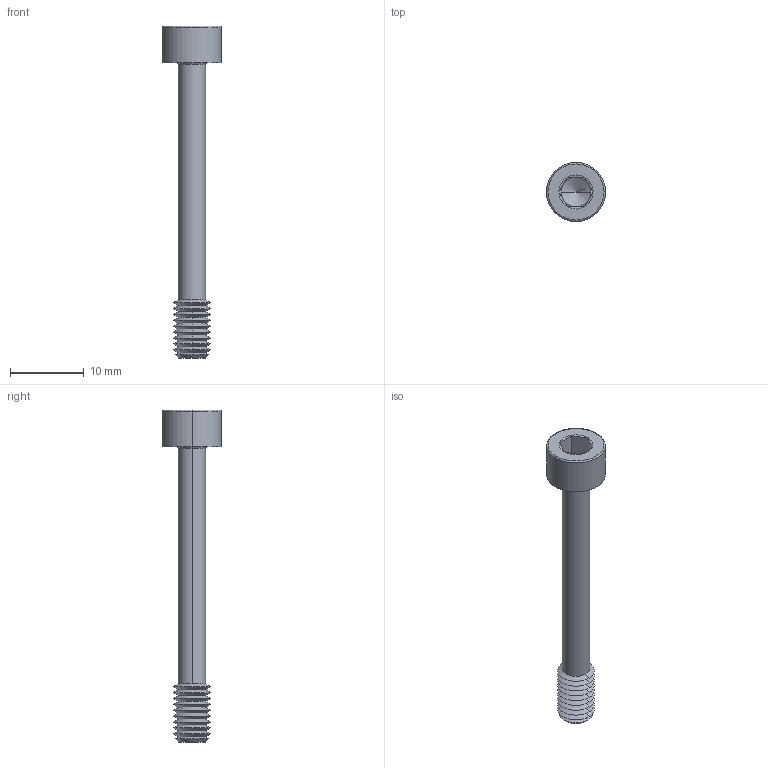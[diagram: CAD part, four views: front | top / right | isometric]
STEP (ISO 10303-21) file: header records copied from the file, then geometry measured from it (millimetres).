
FILE_DESCRIPTION (( 'STEP AP203' ), '1' );
FILE_NAME ('P0154.050-040-BL.step', '2024-06-17T11:27:44', ( '' ), ( '' ), 'SwSTEP 2.0', 'SolidWorks 2019', '' );
FILE_SCHEMA (( 'CONFIG_CONTROL_DESIGN' ));
Length unit declared in the file: millimetre
Products named in the file (1): P0154.050-040-BL
Bounding box: 8 x 8 x 45 mm (x, y, z)
Volume: 651 mm3; surface area: 861.7 mm2
Topology: 1 solids, 1 shells, 71 faces, 144 edges, 75 vertices
Faces by surface type: cone 48, plane 15, torus 4, cylinder 4
Entity records: 1887 total; most frequent: DIRECTION 352, CARTESIAN_POINT 315, ORIENTED_EDGE 284, AXIS2_PLACEMENT_3D 144, EDGE_CURVE 142, VERTEX_POINT 75, EDGE_LOOP 73, CIRCLE 72
